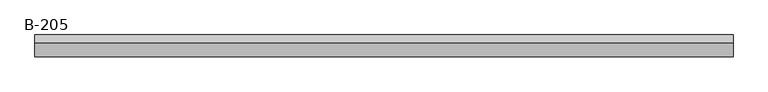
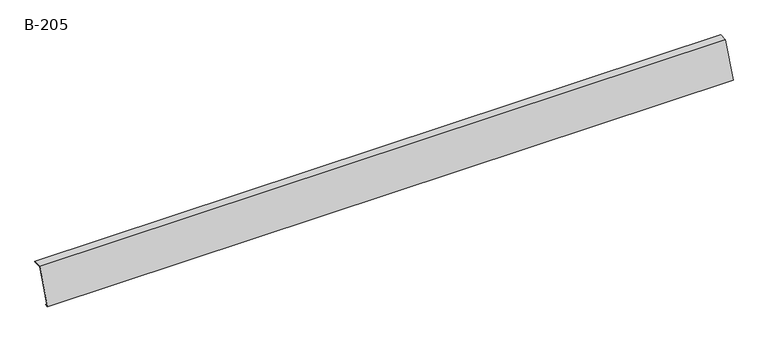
"""IFC4 building model written with IfcOpenShell, lengths in millimetres: proxy geometry, GROVIK_Flashing_Eaves_Custom : B-205."""

from ifc_helpers import new_model, si_unit, frame, origin, place, context, project, spatial, polyline, outline, extrude, source, transform, mapped, element, save


def b_205_cd1249d6(model_context):
    return source(origin(), model_context, "Body", "SweptSolid", [
        extrude(outline(polyline([(-0.6918582, 0.9880759), (-57.9129574, -148.077984), (-48.2100002, -145.6587651), (-47.9680783, -146.6290608), (-59.5349563, -149.5130074), (-1.3837164, 1.9761518), (34.9597645, 2.6105296), (34.9772169, 1.6106819), (-0.6918582, 0.9880759)])), frame((0.0, 0.0, 0.0), z_axis=(1.0, 0.0, 0.0), x_axis=(0.0, 1.0, 0.0)), (0.0, 0.0, 1.0), 3000.0),
    ])


if __name__ == "__main__":
    model = new_model("IFC4")
    model_context = context("Model", 3, world=origin())
    ifc_project = project(units=[si_unit("LENGTHUNIT", "METRE", prefix="MILLI")], contexts=[model_context])
    site = spatial("IfcSite", under=ifc_project)
    building = spatial("IfcBuilding", under=site)
    placement = place(None, origin())
    b_205_shape = b_205_cd1249d6(model_context)
    element("IfcBuildingElementProxy", 1, Name="GROVIK_Flashing_Eaves_Custom : B-205", ObjectType="GROVIK_Flashing_Eaves_Custom : B-205", at=placement, inside=building, context=model_context, shape_type="MappedRepresentation", body=[
        mapped(b_205_shape, transform((0.0, 0.0, 0.0), x_axis=(1.0, 0.0, 0.0), y_axis=(0.0, 1.0, 0.0), z_axis=(0.0, 0.0, 1.0))),
    ])
    save(model, "model.ifc")
